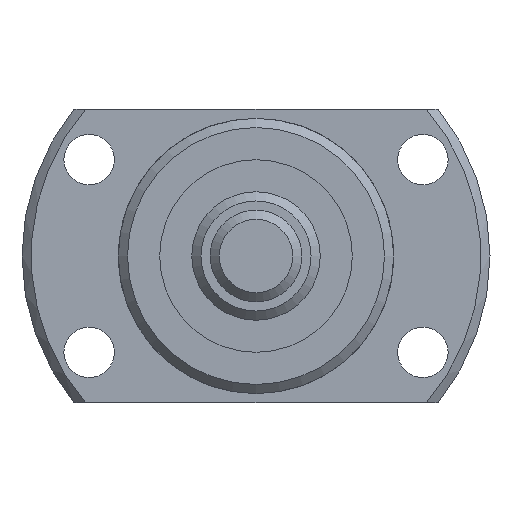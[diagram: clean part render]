
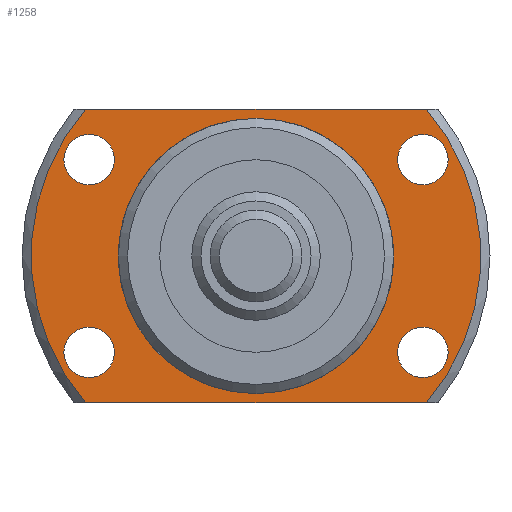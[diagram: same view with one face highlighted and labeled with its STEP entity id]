
A CAD part, left-side view. The second image highlights one B-rep face of the part: STEP entity #1258.
In plain terms, the highlighted planar face has unit normal (-1, 0, 0).
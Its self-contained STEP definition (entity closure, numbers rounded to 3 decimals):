
#128=CIRCLE('',#1401,14.8);
#131=CIRCLE('',#1405,24.5);
#137=CIRCLE('',#1416,2.75);
#138=CIRCLE('',#1417,2.75);
#139=CIRCLE('',#1418,2.75);
#140=CIRCLE('',#1419,2.75);
#141=CIRCLE('',#1420,24.5);
#297=ORIENTED_EDGE('',*,*,#578,.T.);
#298=ORIENTED_EDGE('',*,*,#579,.T.);
#299=ORIENTED_EDGE('',*,*,#580,.T.);
#300=ORIENTED_EDGE('',*,*,#581,.T.);
#301=ORIENTED_EDGE('',*,*,#567,.F.);
#302=ORIENTED_EDGE('',*,*,#582,.T.);
#303=ORIENTED_EDGE('',*,*,#583,.F.);
#304=ORIENTED_EDGE('',*,*,#584,.T.);
#305=ORIENTED_EDGE('',*,*,#561,.T.);
#561=EDGE_CURVE('',#715,#715,#128,.T.);
#567=EDGE_CURVE('',#720,#721,#131,.T.);
#578=EDGE_CURVE('',#730,#730,#137,.T.);
#579=EDGE_CURVE('',#731,#731,#138,.T.);
#580=EDGE_CURVE('',#732,#732,#139,.T.);
#581=EDGE_CURVE('',#733,#733,#140,.T.);
#582=EDGE_CURVE('',#720,#734,#811,.T.);
#583=EDGE_CURVE('',#735,#734,#141,.T.);
#584=EDGE_CURVE('',#735,#721,#812,.T.);
#715=VERTEX_POINT('',#2062);
#720=VERTEX_POINT('',#2076);
#721=VERTEX_POINT('',#2078);
#730=VERTEX_POINT('',#2112);
#731=VERTEX_POINT('',#2114);
#732=VERTEX_POINT('',#2116);
#733=VERTEX_POINT('',#2118);
#734=VERTEX_POINT('',#2120);
#735=VERTEX_POINT('',#2122);
#811=LINE('',#2119,#873);
#812=LINE('',#2123,#874);
#873=VECTOR('',#1709,1000.);
#874=VECTOR('',#1712,1000.);
#973=EDGE_LOOP('',(#297));
#974=EDGE_LOOP('',(#298));
#975=EDGE_LOOP('',(#299));
#976=EDGE_LOOP('',(#300));
#977=EDGE_LOOP('',(#301,#302,#303,#304));
#978=EDGE_LOOP('',(#305));
#1107=FACE_BOUND('',#973,.T.);
#1108=FACE_BOUND('',#974,.T.);
#1109=FACE_BOUND('',#975,.T.);
#1110=FACE_BOUND('',#976,.T.);
#1111=FACE_BOUND('',#977,.T.);
#1112=FACE_BOUND('',#978,.T.);
#1195=PLANE('',#1415);
#1258=ADVANCED_FACE('',(#1107,#1108,#1109,#1110,#1111,#1112),#1195,.F.);
#1401=AXIS2_PLACEMENT_3D('',#2061,#1667,#1668);
#1405=AXIS2_PLACEMENT_3D('',#2077,#1677,#1678);
#1415=AXIS2_PLACEMENT_3D('',#2110,#1699,#1700);
#1416=AXIS2_PLACEMENT_3D('',#2111,#1701,#1702);
#1417=AXIS2_PLACEMENT_3D('',#2113,#1703,#1704);
#1418=AXIS2_PLACEMENT_3D('',#2115,#1705,#1706);
#1419=AXIS2_PLACEMENT_3D('',#2117,#1707,#1708);
#1420=AXIS2_PLACEMENT_3D('',#2121,#1710,#1711);
#1667=DIRECTION('',(1.,0.,0.));
#1668=DIRECTION('',(0.,0.,-1.));
#1677=DIRECTION('',(1.,0.,0.));
#1678=DIRECTION('',(0.,0.,-1.));
#1699=DIRECTION('',(1.,0.,0.));
#1700=DIRECTION('',(0.,0.,-1.));
#1701=DIRECTION('',(1.,0.,0.));
#1702=DIRECTION('',(0.,0.,-1.));
#1703=DIRECTION('',(1.,0.,0.));
#1704=DIRECTION('',(0.,0.,-1.));
#1705=DIRECTION('',(1.,0.,0.));
#1706=DIRECTION('',(0.,0.,-1.));
#1707=DIRECTION('',(1.,0.,0.));
#1708=DIRECTION('',(0.,0.,-1.));
#1709=DIRECTION('',(0.,-1.,0.));
#1710=DIRECTION('',(1.,0.,0.));
#1711=DIRECTION('',(0.,0.,-1.));
#1712=DIRECTION('',(0.,1.,0.));
#2061=CARTESIAN_POINT('',(27.,0.,0.));
#2062=CARTESIAN_POINT('',(27.,0.,-14.8));
#2076=CARTESIAN_POINT('',(27.,18.554,-16.));
#2077=CARTESIAN_POINT('',(27.,0.,0.));
#2078=CARTESIAN_POINT('',(27.,18.554,16.));
#2110=CARTESIAN_POINT('',(27.,14.8,0.));
#2111=CARTESIAN_POINT('',(27.,-18.187,-10.5));
#2112=CARTESIAN_POINT('',(27.,-18.187,-13.25));
#2113=CARTESIAN_POINT('',(27.,-18.187,10.5));
#2114=CARTESIAN_POINT('',(27.,-18.187,7.75));
#2115=CARTESIAN_POINT('',(27.,18.187,-10.5));
#2116=CARTESIAN_POINT('',(27.,18.187,-13.25));
#2117=CARTESIAN_POINT('',(27.,18.187,10.5));
#2118=CARTESIAN_POINT('',(27.,18.187,7.75));
#2119=CARTESIAN_POINT('',(27.,14.8,-16.));
#2120=CARTESIAN_POINT('',(27.,-18.554,-16.));
#2121=CARTESIAN_POINT('',(27.,0.,0.));
#2122=CARTESIAN_POINT('',(27.,-18.554,16.));
#2123=CARTESIAN_POINT('',(27.,14.8,16.));
